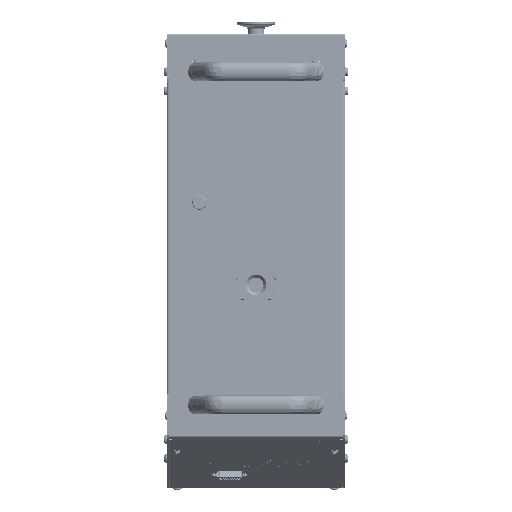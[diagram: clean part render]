
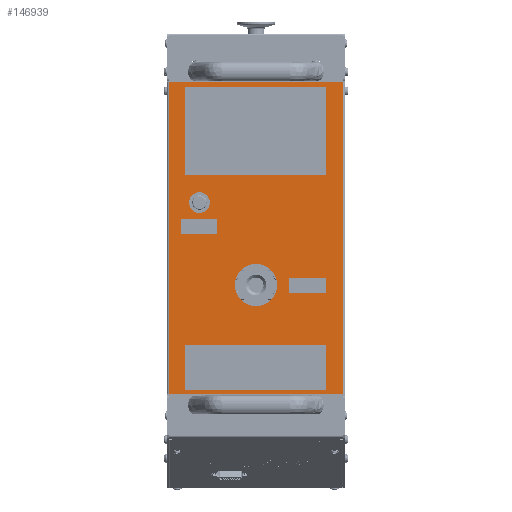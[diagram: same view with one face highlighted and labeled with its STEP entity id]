
A CAD part, top view. The second image highlights one B-rep face of the part: STEP entity #146939.
In plain terms, the highlighted planar face has unit normal (0, 0, 1).
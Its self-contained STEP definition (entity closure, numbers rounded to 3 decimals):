
#4437=FACE_BOUND('',#14358,.T.);
#4438=FACE_BOUND('',#14359,.T.);
#6195=FACE_OUTER_BOUND('',#14357,.T.);
#14357=EDGE_LOOP('',(#93775,#93776,#93777,#93778));
#14358=EDGE_LOOP('',(#93779));
#14359=EDGE_LOOP('',(#93780));
#23818=CIRCLE('',#155920,22.5);
#23819=CIRCLE('',#155921,11.);
#25782=LINE('',#201739,#42465);
#25783=LINE('',#201741,#42466);
#25784=LINE('',#201743,#42467);
#25785=LINE('',#201744,#42468);
#42465=VECTOR('',#166211,1000.);
#42466=VECTOR('',#166212,1000.);
#42467=VECTOR('',#166213,1000.);
#42468=VECTOR('',#166214,1000.);
#59156=VERTEX_POINT('',#201737);
#59157=VERTEX_POINT('',#201738);
#59158=VERTEX_POINT('',#201740);
#59159=VERTEX_POINT('',#201742);
#59160=VERTEX_POINT('',#201745);
#59161=VERTEX_POINT('',#201747);
#72981=EDGE_CURVE('',#59156,#59157,#25782,.T.);
#72982=EDGE_CURVE('',#59157,#59158,#25783,.T.);
#72983=EDGE_CURVE('',#59158,#59159,#25784,.T.);
#72984=EDGE_CURVE('',#59156,#59159,#25785,.T.);
#72985=EDGE_CURVE('',#59160,#59160,#23818,.T.);
#72986=EDGE_CURVE('',#59161,#59161,#23819,.T.);
#93775=ORIENTED_EDGE('',*,*,#72981,.T.);
#93776=ORIENTED_EDGE('',*,*,#72982,.T.);
#93777=ORIENTED_EDGE('',*,*,#72983,.T.);
#93778=ORIENTED_EDGE('',*,*,#72984,.F.);
#93779=ORIENTED_EDGE('',*,*,#72985,.T.);
#93780=ORIENTED_EDGE('',*,*,#72986,.F.);
#133156=PLANE('',#155919);
#146939=ADVANCED_FACE('',(#6195,#4437,#4438),#133156,.F.);
#155919=AXIS2_PLACEMENT_3D('',#201736,#166209,#166210);
#155920=AXIS2_PLACEMENT_3D('',#201746,#166215,#166216);
#155921=AXIS2_PLACEMENT_3D('',#201748,#166217,#166218);
#166209=DIRECTION('center_axis',(0.,0.,-1.));
#166210=DIRECTION('ref_axis',(0.,1.,0.));
#166211=DIRECTION('',(0.,-1.,0.));
#166212=DIRECTION('',(1.,0.,0.));
#166213=DIRECTION('',(0.,1.,0.));
#166214=DIRECTION('',(1.,0.,0.));
#166215=DIRECTION('center_axis',(0.,0.,-1.));
#166216=DIRECTION('ref_axis',(0.,1.,0.));
#166217=DIRECTION('center_axis',(0.,0.,1.));
#166218=DIRECTION('ref_axis',(1.,0.,0.));
#201736=CARTESIAN_POINT('Origin',(170.,-92.911,121.25));
#201737=CARTESIAN_POINT('',(-161.5,92.,121.25));
#201738=CARTESIAN_POINT('',(-161.5,-92.,121.25));
#201739=CARTESIAN_POINT('',(-161.5,-92.911,121.25));
#201740=CARTESIAN_POINT('',(170.,-92.,121.25));
#201741=CARTESIAN_POINT('',(-161.5,-92.,121.25));
#201742=CARTESIAN_POINT('',(170.,92.,121.25));
#201743=CARTESIAN_POINT('',(170.,-92.911,121.25));
#201744=CARTESIAN_POINT('',(-161.5,92.,121.25));
#201745=CARTESIAN_POINT('',(-45.5,22.5,121.25));
#201746=CARTESIAN_POINT('Origin',(-45.5,0.,121.25));
#201747=CARTESIAN_POINT('',(53.,60.,121.25));
#201748=CARTESIAN_POINT('Origin',(42.,60.,121.25));
